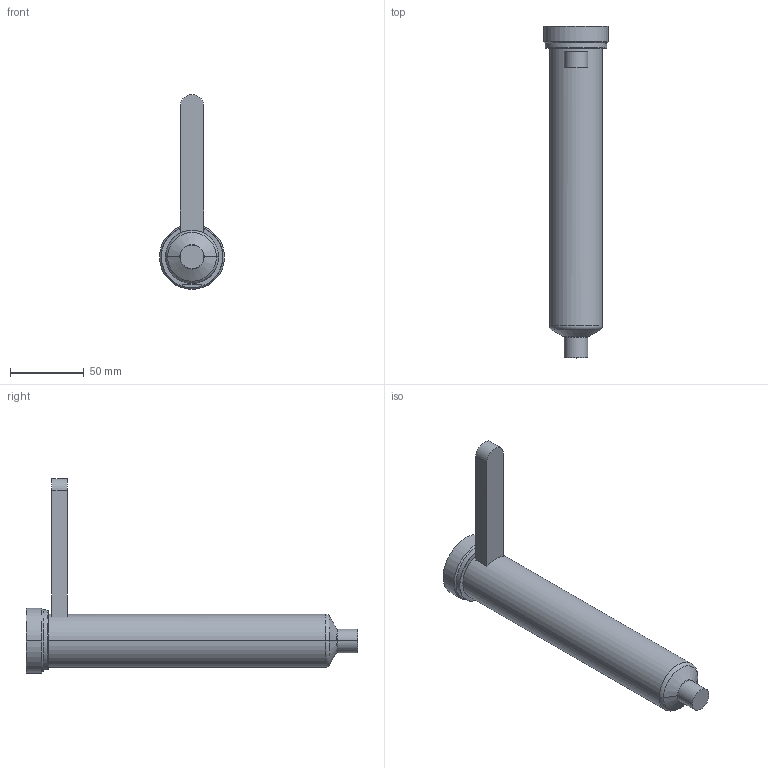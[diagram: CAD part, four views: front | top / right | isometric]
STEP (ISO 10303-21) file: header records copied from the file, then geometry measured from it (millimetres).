
FILE_DESCRIPTION((''),'2;1');
FILE_NAME('EO12_PG-FBE_STD_200_COT','2024-02-19T12:03:31',('sundharh'),(''),'CREO PARAMETRIC BY PTC INC, 2023154','CREO PARAMETRIC BY PTC INC, 2023154','');
FILE_SCHEMA(('CONFIG_CONTROL_DESIGN'));
Length unit declared in the file: millimetre
Products named in the file (1): EO12_PG-FBE_STD_200_COT
Bounding box: 44 x 225 x 132 mm (x, y, z)
Volume: 236832.5 mm3; surface area: 32085.6 mm2
Topology: 1 solids, 1 shells, 31 faces, 67 edges, 40 vertices
Faces by surface type: cylinder 11, plane 9, torus 7, cone 4
Entity records: 951 total; most frequent: CARTESIAN_POINT 218, DIRECTION 159, ORIENTED_EDGE 134, AXIS2_PLACEMENT_3D 67, EDGE_CURVE 67, VERTEX_POINT 40, CIRCLE 36, EDGE_LOOP 33
